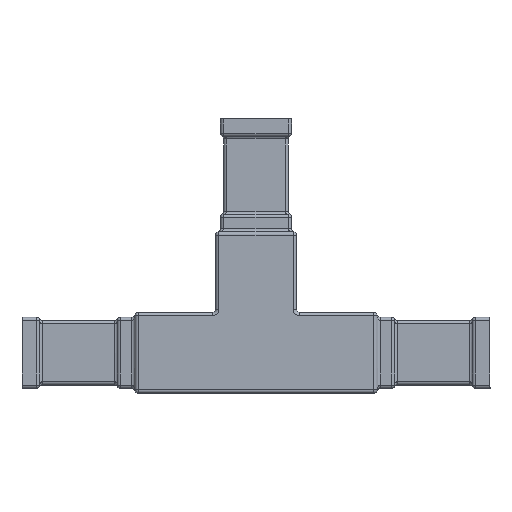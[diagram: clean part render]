
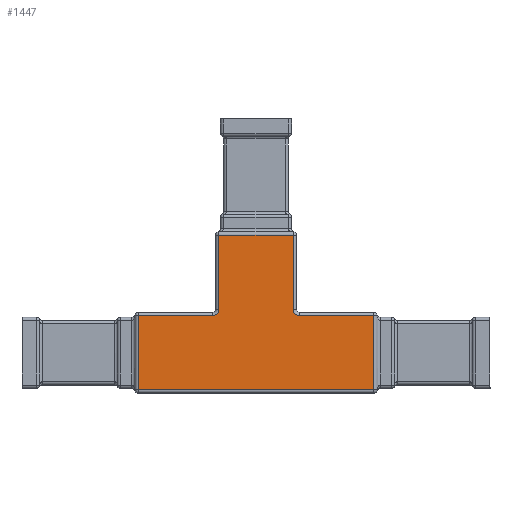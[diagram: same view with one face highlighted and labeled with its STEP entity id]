
A CAD part, left-side view. The second image highlights one B-rep face of the part: STEP entity #1447.
In plain terms, the highlighted planar face has unit normal (-1, 0, 0).
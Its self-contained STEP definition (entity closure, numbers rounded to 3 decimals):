
#1 = CARTESIAN_POINT ( 'NONE',  ( -12.5, 11.5, -53.5 ) ) ;
#77 = EDGE_CURVE ( 'NONE', #9392, #732, #6992, .T. ) ;
#132 = ORIENTED_EDGE ( 'NONE', *, *, #2383, .F. ) ;
#210 = EDGE_CURVE ( 'NONE', #7761, #3175, #999, .T. ) ;
#264 = VECTOR ( 'NONE', #8735, 1000. ) ;
#328 = DIRECTION ( 'NONE',  ( 0., -1., 0. ) ) ;
#545 = ORIENTED_EDGE ( 'NONE', *, *, #5462, .F. ) ;
#559 = CARTESIAN_POINT ( 'NONE',  ( -12.5, -11.5, -67. ) ) ;
#601 = CARTESIAN_POINT ( 'NONE',  ( -12.5, 13.5, -55.5 ) ) ;
#732 = VERTEX_POINT ( 'NONE', #2281 ) ;
#863 = LINE ( 'NONE', #559, #2115 ) ;
#886 = VERTEX_POINT ( 'NONE', #4027 ) ;
#951 = ORIENTED_EDGE ( 'NONE', *, *, #210, .F. ) ;
#999 = LINE ( 'NONE', #7441, #4729 ) ;
#1202 = DIRECTION ( 'NONE',  ( 1., 0., 0. ) ) ;
#1286 = VECTOR ( 'NONE', #1461, 1000. ) ;
#1447 = ADVANCED_FACE ( 'NONE', ( #5811 ), #8265, .F. ) ;
#1461 = DIRECTION ( 'NONE',  ( 0., 0., -1. ) ) ;
#1666 = CARTESIAN_POINT ( 'NONE',  ( -12.5, -11.5, -30.5 ) ) ;
#1675 = VECTOR ( 'NONE', #9069, 1000. ) ;
#1708 = ORIENTED_EDGE ( 'NONE', *, *, #7559, .T. ) ;
#1774 = DIRECTION ( 'NONE',  ( 1., 0., 0. ) ) ;
#1816 = EDGE_CURVE ( 'NONE', #886, #9083, #7066, .T. ) ;
#1883 = ORIENTED_EDGE ( 'NONE', *, *, #1816, .T. ) ;
#1996 = DIRECTION ( 'NONE',  ( 0., 0., -1. ) ) ;
#2076 = CARTESIAN_POINT ( 'NONE',  ( -12.5, -36.5, -55.5 ) ) ;
#2097 = ORIENTED_EDGE ( 'NONE', *, *, #7239, .T. ) ;
#2115 = VECTOR ( 'NONE', #6332, 1000. ) ;
#2160 = VERTEX_POINT ( 'NONE', #6259 ) ;
#2196 = CARTESIAN_POINT ( 'NONE',  ( -12.5, -12.5, -78.5 ) ) ;
#2281 = CARTESIAN_POINT ( 'NONE',  ( -12.5, -36.5, -78.5 ) ) ;
#2383 = EDGE_CURVE ( 'NONE', #9392, #2160, #4142, .T. ) ;
#2442 = CARTESIAN_POINT ( 'NONE',  ( -12.5, -12.5, -67. ) ) ;
#3106 = CIRCLE ( 'NONE', #7320, 2. ) ;
#3175 = VERTEX_POINT ( 'NONE', #2076 ) ;
#3496 = EDGE_CURVE ( 'NONE', #9083, #5747, #3106, .T. ) ;
#3639 = CARTESIAN_POINT ( 'NONE',  ( -12.5, 36.5, -78.5 ) ) ;
#3953 = LINE ( 'NONE', #5433, #1675 ) ;
#4027 = CARTESIAN_POINT ( 'NONE',  ( -12.5, 11.5, -30.5 ) ) ;
#4142 = LINE ( 'NONE', #8006, #264 ) ;
#4296 = ORIENTED_EDGE ( 'NONE', *, *, #77, .T. ) ;
#4313 = ORIENTED_EDGE ( 'NONE', *, *, #7063, .T. ) ;
#4386 = LINE ( 'NONE', #7737, #5830 ) ;
#4429 = DIRECTION ( 'NONE',  ( 0., 0., -1. ) ) ;
#4618 = EDGE_CURVE ( 'NONE', #732, #3175, #6554, .T. ) ;
#4729 = VECTOR ( 'NONE', #8924, 1000. ) ;
#4878 = AXIS2_PLACEMENT_3D ( 'NONE', #2442, #1774, #7481 ) ;
#5433 = CARTESIAN_POINT ( 'NONE',  ( -12.5, 12.5, -30.5 ) ) ;
#5462 = EDGE_CURVE ( 'NONE', #8039, #7761, #7004, .T. ) ;
#5653 = CARTESIAN_POINT ( 'NONE',  ( -12.5, -11.5, -53.5 ) ) ;
#5744 = VECTOR ( 'NONE', #9303, 1000. ) ;
#5747 = VERTEX_POINT ( 'NONE', #601 ) ;
#5811 = FACE_OUTER_BOUND ( 'NONE', #7835, .T. ) ;
#5830 = VECTOR ( 'NONE', #8397, 1000. ) ;
#6259 = CARTESIAN_POINT ( 'NONE',  ( -12.5, 36.5, -55.5 ) ) ;
#6332 = DIRECTION ( 'NONE',  ( 0., 0., 1. ) ) ;
#6554 = LINE ( 'NONE', #7759, #5744 ) ;
#6591 = CARTESIAN_POINT ( 'NONE',  ( -12.5, -13.5, -53.5 ) ) ;
#6992 = LINE ( 'NONE', #2196, #8363 ) ;
#7004 = CIRCLE ( 'NONE', #9077, 2. ) ;
#7063 = EDGE_CURVE ( 'NONE', #8622, #886, #3953, .T. ) ;
#7066 = LINE ( 'NONE', #1, #1286 ) ;
#7239 = EDGE_CURVE ( 'NONE', #5747, #2160, #4386, .T. ) ;
#7320 = AXIS2_PLACEMENT_3D ( 'NONE', #8473, #1202, #1996 ) ;
#7441 = CARTESIAN_POINT ( 'NONE',  ( -12.5, -36.5, -55.5 ) ) ;
#7481 = DIRECTION ( 'NONE',  ( 0., 0., -1. ) ) ;
#7559 = EDGE_CURVE ( 'NONE', #8039, #8622, #863, .T. ) ;
#7737 = CARTESIAN_POINT ( 'NONE',  ( -12.5, 36.5, -55.5 ) ) ;
#7759 = CARTESIAN_POINT ( 'NONE',  ( -12.5, -36.5, -54.5 ) ) ;
#7761 = VERTEX_POINT ( 'NONE', #8960 ) ;
#7835 = EDGE_LOOP ( 'NONE', ( #4296, #9247, #951, #545, #1708, #4313, #1883, #8237, #2097, #132 ) ) ;
#8006 = CARTESIAN_POINT ( 'NONE',  ( -12.5, 36.5, -54.5 ) ) ;
#8039 = VERTEX_POINT ( 'NONE', #5653 ) ;
#8237 = ORIENTED_EDGE ( 'NONE', *, *, #3496, .T. ) ;
#8265 = PLANE ( 'NONE',  #4878 ) ;
#8363 = VECTOR ( 'NONE', #328, 1000. ) ;
#8397 = DIRECTION ( 'NONE',  ( 0., 1., 0. ) ) ;
#8473 = CARTESIAN_POINT ( 'NONE',  ( -12.5, 13.5, -53.5 ) ) ;
#8622 = VERTEX_POINT ( 'NONE', #1666 ) ;
#8735 = DIRECTION ( 'NONE',  ( 0., 0., 1. ) ) ;
#8774 = DIRECTION ( 'NONE',  ( -1., 0., 0. ) ) ;
#8924 = DIRECTION ( 'NONE',  ( 0., -1., 0. ) ) ;
#8951 = CARTESIAN_POINT ( 'NONE',  ( -12.5, 11.5, -53.5 ) ) ;
#8960 = CARTESIAN_POINT ( 'NONE',  ( -12.5, -13.5, -55.5 ) ) ;
#9069 = DIRECTION ( 'NONE',  ( 0., 1., 0. ) ) ;
#9077 = AXIS2_PLACEMENT_3D ( 'NONE', #6591, #8774, #4429 ) ;
#9083 = VERTEX_POINT ( 'NONE', #8951 ) ;
#9247 = ORIENTED_EDGE ( 'NONE', *, *, #4618, .T. ) ;
#9303 = DIRECTION ( 'NONE',  ( 0., 0., 1. ) ) ;
#9392 = VERTEX_POINT ( 'NONE', #3639 ) ;
